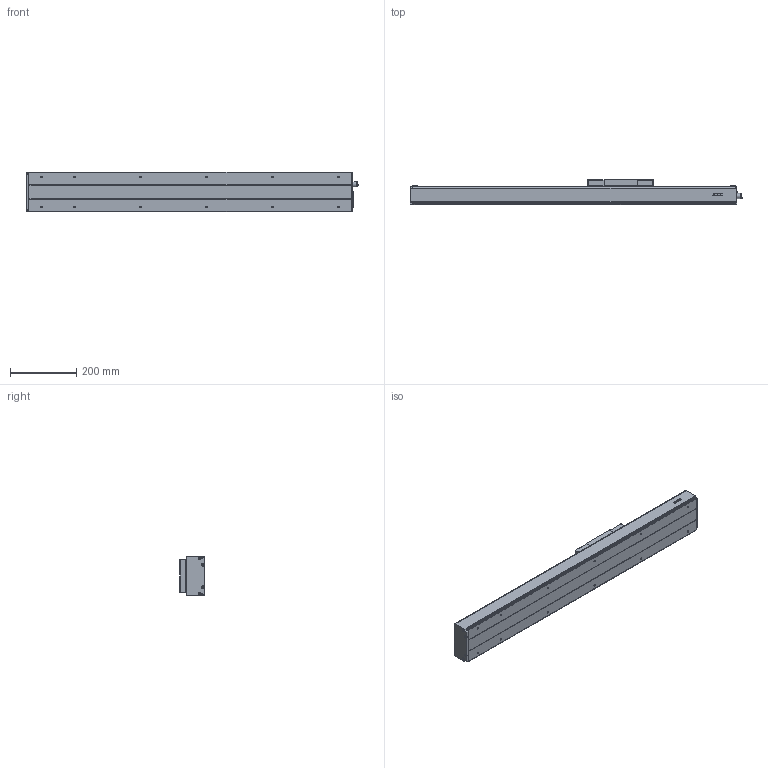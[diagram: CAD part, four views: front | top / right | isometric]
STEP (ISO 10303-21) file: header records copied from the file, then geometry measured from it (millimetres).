
FILE_DESCRIPTION(/* description */ (''),/* implementation_level */ '2;1');
FILE_NAME(/* name */ 'D:\混合母檔20191031\混和母檔\混和母檔\bin\Debug\Download\3D\KS120-10C-500AFI\KS120-10C-500AFI.stp',/* time_stamp */ '2019-11-04T15:13:49+08:00',/* author */ ('user'),/* organization */ (''),/* preprocessor_version */ 'ST-DEVELOPER v16.13',/* originating_system */ 'Autodesk Inventor 2018',/* authorisation */ '');
FILE_SCHEMA (('AUTOMOTIVE_DESIGN { 1 0 10303 214 3 1 1 }'));
Length unit declared in the file: millimetre
Products named in the file (3): KS120-10C-500AFI; KS120-FI; KS120-SL
Assembly tree (2 placements, depth 2):
  KS120-10C-500AFI
    KS120-FI
    KS120-SL
Bounding box: 1004.5 x 77 x 120 mm (x, y, z)
Volume: 2457229 mm3; surface area: 800639.7 mm2
Topology: 4 solids, 11 shells, 995 faces, 2553 edges, 1648 vertices
Faces by surface type: plane 575, cylinder 186, bspline 136, cone 80, torus 14, sphere 4
Full cylindrical faces by diameter (mm): 2.459 x6, 3.242 x4, 4 x32, 4.3 x4, 4.5 x12, 4.917 x12, 6 x6, 7 x4, 8 x9, 8.4 x12, 10.437 x1, 12 x2, 14 x1, 15 x1, 15.538 x1, 19 x1, 28 x1, 30 x1
Entity records: 32989 total; most frequent: CARTESIAN_POINT 10610, ORIENTED_EDGE 4554, DIRECTION 4165, EDGE_CURVE 2275, VERTEX_POINT 1566, LINE 1529, VECTOR 1529, AXIS2_PLACEMENT_3D 1318
